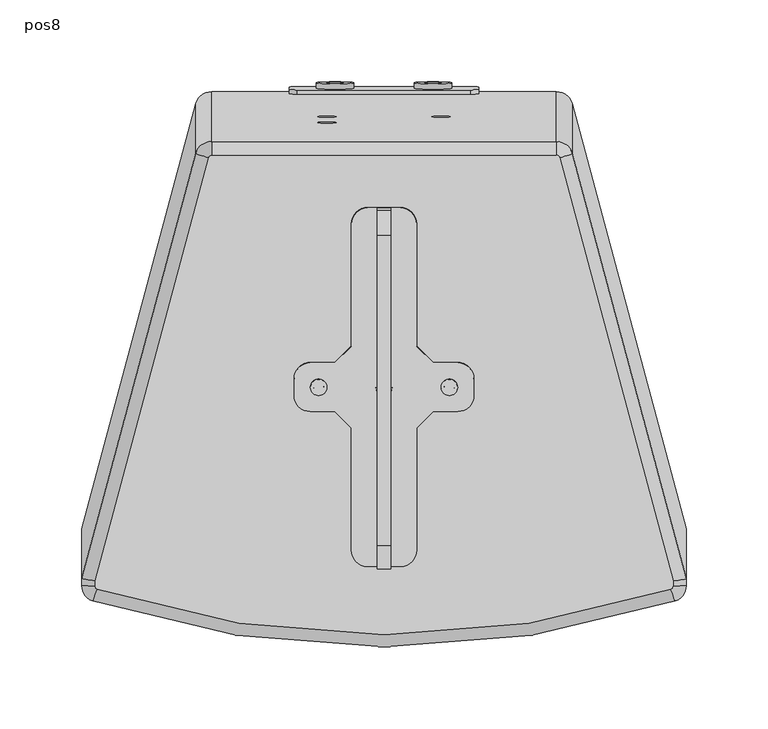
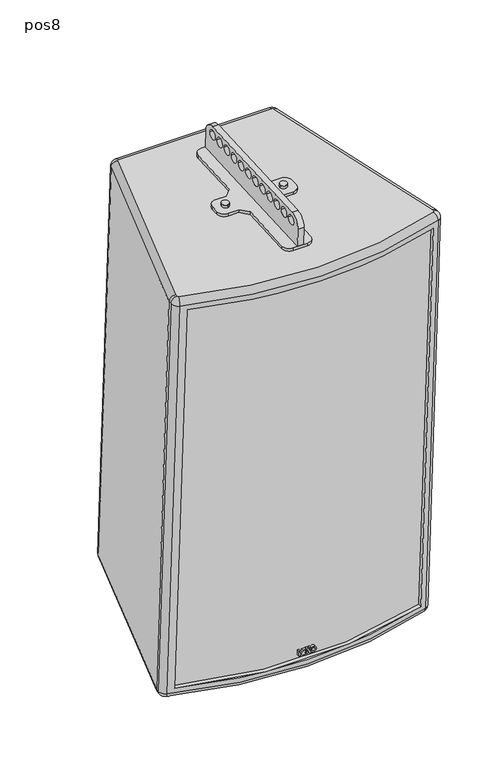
"""IFC4 building model written with IfcOpenShell, lengths in millimetres: proxy geometry, ePS12-BUMP-TRUSSVM : pos8."""

from ifc_helpers import new_model, si_unit, point, frame, frame_2d, origin, place, context, project, spatial, polyline, circle_curve, ellipse_curve, trimmed, segment, composite_curve, outline, extrude, source, transform, mapped, element, save
from ifc_brep_helpers import plane_surface, cylinder_surface, revolved_surface, advanced_brep


def pos8_ceda2ec0(model_context):
    return source(origin(), model_context, "Body", "SolidModel", [
        extrude(outline(composite_curve([segment(trimmed(circle_curve(frame_2d((0.0, -5.0)), 5.0), [point((0.0, -10.0))], [point((0.0, 0.0))], False, "CARTESIAN"), True, "CONTINUOUS"), segment(trimmed(circle_curve(frame_2d((0.0, -5.0)), 5.0), [point((0.0, 0.0))], [point((0.0, -10.0))], False, "CARTESIAN"), True, "CONTINUOUS")], self_intersect=False)), frame((-35.0511607, -24.6379572, -30.3310187), z_axis=(0.0, -0.052335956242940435, 0.998629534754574), x_axis=(0.0, -0.998629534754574, -0.052335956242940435)), (0.0, 0.0, 1.0), 4.0),
        extrude(outline(composite_curve([segment(trimmed(circle_curve(frame_2d((0.0, 75.1023214)), 5.0), [point((0.0, 80.1023214))], [point((0.0, 70.1023214))], False, "CARTESIAN"), True, "CONTINUOUS"), segment(trimmed(circle_curve(frame_2d((0.0, 75.1023214)), 5.0), [point((0.0, 70.1023214))], [point((0.0, 80.1023214))], False, "CARTESIAN"), True, "CONTINUOUS")], self_intersect=False)), frame((-35.0511607, -24.6379572, -30.3310187), z_axis=(0.0, -0.052335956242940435, 0.998629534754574), x_axis=(0.0, -0.998629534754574, -0.052335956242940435)), (0.0, 0.0, 1.0), 4.0),
        extrude(outline(composite_curve([segment(trimmed(circle_curve(frame_2d((68.8711137, 0.6052651)), 15.0), [point((68.0860744, 15.5847081))], [point((83.8505568, 1.3903044))], False, "CARTESIAN"), True, "CONTINUOUS"), segment(polyline([(83.8505568, 1.3903044), (85.2112916, -24.5740635), (-134.487206, -36.0879738), (-135.8479409, -10.1236059)]), True, "CONTINUOUS"), segment(trimmed(circle_curve(frame_2d((-120.8684979, -9.3385666)), 15.0), [point((-135.8479409, -10.1236059))], [point((-121.6535372, 5.6408764))], False, "CARTESIAN"), True, "CONTINUOUS"), segment(polyline([(-121.6535372, 5.6408764), (68.0860744, 15.5847081)]), True, "CONTINUOUS")], self_intersect=False), holes=[composite_curve([segment(trimmed(circle_curve(frame_2d((-34.1706235, -1.7908065)), 6.5), [point((-40.6617155, -2.1309902))], [point((-27.6795315, -1.4506228))], True, "CARTESIAN"), True, "CONTINUOUS"), segment(trimmed(circle_curve(frame_2d((-34.1706235, -1.7908065)), 6.5), [point((-27.6795315, -1.4506228))], [point((-40.6617155, -2.1309902))], True, "CARTESIAN"), True, "CONTINUOUS")], self_intersect=False), composite_curve([segment(trimmed(circle_curve(frame_2d((-51.2253435, -2.6846065)), 6.5), [point((-57.7164355, -3.0247902))], [point((-44.7342516, -2.3444228))], True, "CARTESIAN"), True, "CONTINUOUS"), segment(trimmed(circle_curve(frame_2d((-51.2253435, -2.6846065)), 6.5), [point((-44.7342516, -2.3444228))], [point((-57.7164355, -3.0247902))], True, "CARTESIAN"), True, "CONTINUOUS")], self_intersect=False), composite_curve([segment(trimmed(circle_curve(frame_2d((-68.2800636, -3.5784065)), 6.5), [point((-74.7711555, -3.9185902))], [point((-61.7889716, -3.2382228))], True, "CARTESIAN"), True, "CONTINUOUS"), segment(trimmed(circle_curve(frame_2d((-68.2800636, -3.5784065)), 6.5), [point((-61.7889716, -3.2382228))], [point((-74.7711555, -3.9185902))], True, "CARTESIAN"), True, "CONTINUOUS")], self_intersect=False), composite_curve([segment(trimmed(circle_curve(frame_2d((-85.3347836, -4.4722065)), 6.5), [point((-91.8258756, -4.8123902))], [point((-78.8436916, -4.1320228))], True, "CARTESIAN"), True, "CONTINUOUS"), segment(trimmed(circle_curve(frame_2d((-85.3347836, -4.4722065)), 6.5), [point((-78.8436916, -4.1320228))], [point((-91.8258756, -4.8123902))], True, "CARTESIAN"), True, "CONTINUOUS")], self_intersect=False), composite_curve([segment(trimmed(circle_curve(frame_2d((-102.3895036, -5.3660065)), 6.5), [point((-108.8805956, -5.7061902))], [point((-95.8984116, -5.0258228))], True, "CARTESIAN"), True, "CONTINUOUS"), segment(trimmed(circle_curve(frame_2d((-102.3895036, -5.3660065)), 6.5), [point((-95.8984116, -5.0258228))], [point((-108.8805956, -5.7061902))], True, "CARTESIAN"), True, "CONTINUOUS")], self_intersect=False), composite_curve([segment(trimmed(circle_curve(frame_2d((-119.4442236, -6.2598065)), 6.5), [point((-125.9353156, -6.5999902))], [point((-112.9531317, -5.9196228))], True, "CARTESIAN"), True, "CONTINUOUS"), segment(trimmed(circle_curve(frame_2d((-119.4442236, -6.2598065)), 6.5), [point((-112.9531317, -5.9196228))], [point((-125.9353156, -6.5999902))], True, "CARTESIAN"), True, "CONTINUOUS")], self_intersect=False), composite_curve([segment(trimmed(circle_curve(frame_2d((-17.0853118, -0.8954032)), 6.5), [point((-10.5942198, -0.5552195))], [point((-23.5764037, -1.235587))], True, "CARTESIAN"), True, "CONTINUOUS"), segment(trimmed(circle_curve(frame_2d((-17.0853118, -0.8954032)), 6.5), [point((-23.5764037, -1.235587))], [point((-10.5942198, -0.5552195))], True, "CARTESIAN"), True, "CONTINUOUS")], self_intersect=False), composite_curve([segment(trimmed(circle_curve(frame_2d((-0.0305917, -0.0016032)), 6.5), [point((6.4605002, 0.3385805))], [point((-6.5216837, -0.341787))], True, "CARTESIAN"), True, "CONTINUOUS"), segment(trimmed(circle_curve(frame_2d((-0.0305917, -0.0016032)), 6.5), [point((-6.5216837, -0.341787))], [point((6.4605002, 0.3385805))], True, "CARTESIAN"), True, "CONTINUOUS")], self_intersect=False), composite_curve([segment(trimmed(circle_curve(frame_2d((17.0241283, 0.8921968)), 6.5), [point((23.5152203, 1.2323805))], [point((10.5330363, 0.552013))], True, "CARTESIAN"), True, "CONTINUOUS"), segment(trimmed(circle_curve(frame_2d((17.0241283, 0.8921968)), 6.5), [point((10.5330363, 0.552013))], [point((23.5152203, 1.2323805))], True, "CARTESIAN"), True, "CONTINUOUS")], self_intersect=False), composite_curve([segment(trimmed(circle_curve(frame_2d((34.0788483, 1.7859968)), 6.5), [point((40.5699403, 2.1261805))], [point((27.5877563, 1.445813))], True, "CARTESIAN"), True, "CONTINUOUS"), segment(trimmed(circle_curve(frame_2d((34.0788483, 1.7859968)), 6.5), [point((27.5877563, 1.445813))], [point((40.5699403, 2.1261805))], True, "CARTESIAN"), True, "CONTINUOUS")], self_intersect=False), composite_curve([segment(trimmed(circle_curve(frame_2d((51.1335683, 2.6797968)), 6.5), [point((57.6246603, 3.0199805))], [point((44.6424764, 2.339613))], True, "CARTESIAN"), True, "CONTINUOUS"), segment(trimmed(circle_curve(frame_2d((51.1335683, 2.6797968)), 6.5), [point((44.6424764, 2.339613))], [point((57.6246603, 3.0199805))], True, "CARTESIAN"), True, "CONTINUOUS")], self_intersect=False), composite_curve([segment(trimmed(circle_curve(frame_2d((68.1882884, 3.5735968)), 6.5), [point((74.6793803, 3.9137805))], [point((61.6971964, 3.2334131))], True, "CARTESIAN"), True, "CONTINUOUS"), segment(trimmed(circle_curve(frame_2d((68.1882884, 3.5735968)), 6.5), [point((61.6971964, 3.2334131))], [point((74.6793803, 3.9137805))], True, "CARTESIAN"), True, "CONTINUOUS")], self_intersect=False)]), frame((-4.0, 0.0, 0.0), z_axis=(1.0, 0.0, 0.0), x_axis=(0.0, 1.0, 0.0)), (0.0, 0.0, 1.0), 8.0),
        extrude(outline(composite_curve([segment(polyline([(1.6568543, 0.0), (54.6898629, 53.0330086)]), True, "CONTINUOUS"), segment(trimmed(circle_curve(frame_2d((61.7609307, 45.9619408)), 10.0), [point((54.6898629, 53.0330086))], [point((68.8319985, 53.0330086))], False, "CARTESIAN"), True, "CONTINUOUS"), segment(polyline([(68.8319985, 53.0330086), (82.9741341, 38.8908729)]), True, "CONTINUOUS"), segment(trimmed(circle_curve(frame_2d((75.9030663, 31.8198051)), 10.0), [point((82.9741341, 38.8908729))], [point((82.9741341, 24.7487373))], False, "CARTESIAN"), True, "CONTINUOUS"), segment(polyline([(82.9741341, 24.7487373), (29.9411255, -28.2842712), (29.9411255, -42.4264069), (40.5477272, -53.0330086)]), True, "CONTINUOUS"), segment(trimmed(circle_curve(frame_2d((33.4766594, -60.1040764)), 10.0), [point((40.5477272, -53.0330086))], [point((40.5477272, -67.1751442))], False, "CARTESIAN"), True, "CONTINUOUS"), segment(polyline([(40.5477272, -67.1751442), (33.4766594, -74.2462121)]), True, "CONTINUOUS"), segment(trimmed(circle_curve(frame_2d((26.4055916, -67.1751443)), 10.0), [point((33.4766594, -74.2462121))], [point((19.3345238, -74.246212))], False, "CARTESIAN"), True, "CONTINUOUS"), segment(polyline([(19.3345238, -74.246212), (8.7279221, -63.6396103), (-5.4142136, -63.6396103), (-58.4472222, -116.6726189)]), True, "CONTINUOUS"), segment(trimmed(circle_curve(frame_2d((-65.51829, -109.6015511)), 10.0), [point((-58.4472222, -116.6726189))], [point((-72.5893577, -116.6726189))], False, "CARTESIAN"), True, "CONTINUOUS"), segment(polyline([(-72.5893577, -116.6726189), (-86.7314934, -102.5304833)]), True, "CONTINUOUS"), segment(trimmed(circle_curve(frame_2d((-79.6604256, -95.4594155)), 10.0), [point((-86.7314934, -102.5304833))], [point((-86.7314934, -88.3883477))], False, "CARTESIAN"), True, "CONTINUOUS"), segment(polyline([(-86.7314934, -88.3883477), (-33.6984848, -35.3553391), (-33.6984848, -21.2132034), (-44.3050865, -10.6066017)]), True, "CONTINUOUS"), segment(trimmed(circle_curve(frame_2d((-37.2340187, -3.5355339)), 10.0), [point((-44.3050865, -10.6066017))], [point((-44.3050865, 3.5355339))], False, "CARTESIAN"), True, "CONTINUOUS"), segment(polyline([(-44.3050865, 3.5355339), (-37.2340187, 10.6066017)]), True, "CONTINUOUS"), segment(trimmed(circle_curve(frame_2d((-30.1629509, 3.5355339)), 10.0), [point((-37.2340187, 10.6066017))], [point((-23.0918831, 10.6066017))], False, "CARTESIAN"), True, "CONTINUOUS"), segment(polyline([(-23.0918831, 10.6066017), (-12.4852814, 0.0), (1.6568543, 0.0)]), True, "CONTINUOUS")], self_intersect=False), holes=[composite_curve([segment(trimmed(circle_curve(frame_2d((-30.1702094, -3.5282754)), 3.0), [point((-32.2915298, -1.4069551))], [point((-28.0488891, -5.6495957))], True, "CARTESIAN"), True, "CONTINUOUS"), segment(trimmed(circle_curve(frame_2d((-30.1702094, -3.5282754)), 3.0), [point((-28.0488891, -5.6495957))], [point((-32.2915298, -1.4069551))], True, "CARTESIAN"), True, "CONTINUOUS")], self_intersect=False), composite_curve([segment(trimmed(circle_curve(frame_2d((26.4128501, -60.1113349)), 3.0), [point((28.5341705, -62.2326553))], [point((24.2915298, -57.9900146))], True, "CARTESIAN"), True, "CONTINUOUS"), segment(trimmed(circle_curve(frame_2d((26.4128501, -60.1113349)), 3.0), [point((24.2915298, -57.9900146))], [point((28.5341705, -62.2326553))], True, "CARTESIAN"), True, "CONTINUOUS")], self_intersect=False)]), frame((-21.1715729, -0.6328423, -33.0784533), z_axis=(0.0, -0.05233595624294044, 0.998629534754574), x_axis=(0.7071067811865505, 0.7061377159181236, 0.03700710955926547)), (0.0, 0.0, 1.0), 4.0),
        extrude(outline(composite_curve([segment(trimmed(circle_curve(frame_2d((3.670838, -20.0113735)), 3.9406238), [point((3.670838, -16.0707497))], [point((3.670838, -23.9519974))], False, "CARTESIAN"), True, "CONTINUOUS"), segment(trimmed(circle_curve(frame_2d((3.670838, -20.0113735)), 3.9406238), [point((3.670838, -23.9519974))], [point((3.670838, -16.0707497))], False, "CARTESIAN"), True, "CONTINUOUS")], self_intersect=False), holes=[composite_curve([segment(trimmed(circle_curve(frame_2d((3.670838, -20.0113735)), 2.0681078), [point((3.670838, -17.9432657))], [point((3.670838, -22.0794813))], True, "CARTESIAN"), True, "CONTINUOUS"), segment(trimmed(circle_curve(frame_2d((3.670838, -20.0113735)), 2.0681078), [point((3.670838, -22.0794813))], [point((3.670838, -17.9432657))], True, "CARTESIAN"), True, "CONTINUOUS")], self_intersect=False)]), frame((-11.9363528, -152.2819405, -612.3681033), z_axis=(0.0, 0.998629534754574, 0.052335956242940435), x_axis=(0.0, 0.052335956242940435, -0.998629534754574)), (0.0, 0.0, 1.0), 3.5087945),
        extrude(outline(polyline([(0.0, 0.0), (7.2797671, 0.0), (7.2797671, -1.8923673), (3.1144368, -1.8923673), (7.2797671, -4.6674642), (7.2797671, -11.5183739), (5.4047959, -12.8369462), (3.8052625, -11.7735691), (5.6771026, -10.4040265), (5.6771026, -7.3703972), (4.4228152, -7.3703972), (4.4228152, -9.6535101), (2.820085, -9.6535101), (2.820085, -7.3703972), (1.6035818, -7.3703972), (1.6035818, -9.7774719), (0.8035818, -9.7774719), (0.0008516, -9.2438132), (0.0008516, -4.9754371), (4.4509075, -4.9657455), (0.0, -2.0264794), (0.0, 0.0)])), frame((-11.9363528, -152.2819405, -612.3681033), z_axis=(0.0, 0.998629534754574, 0.052335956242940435), x_axis=(0.0, 0.052335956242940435, -0.998629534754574)), (0.0, 0.0, 1.0), 3.5087945),
        extrude(outline(polyline([(0.0, -9.8851283), (8.2409468, -15.3637475), (8.2409468, -17.5569502), (0.0, -12.078331), (0.0, -9.8851283)])), frame((-11.9363528, -152.2819405, -612.3681033), z_axis=(0.0, 0.998629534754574, 0.052335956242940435), x_axis=(0.0, 0.052335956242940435, -0.998629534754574)), (0.0, 0.0, 1.0), 3.5087945),
        extrude(outline(polyline([(0.0, -16.6257623), (0.0, -14.2989718), (1.267957, -13.5511775), (2.8988509, -14.6354032), (0.0, -16.6257623)])), frame((-11.9363528, -152.2819405, -612.3681033), z_axis=(0.0, 0.998629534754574, 0.052335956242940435), x_axis=(0.0, 0.052335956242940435, -0.998629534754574)), (0.0, 0.0, 1.0), 3.5087945),
        extrude(outline(composite_curve([segment(trimmed(circle_curve(frame_2d((0.0, -55.0)), 11.4515227), [point((0.0, -43.5484773))], [point((0.0, -66.4515227))], False, "CARTESIAN"), True, "CONTINUOUS"), segment(trimmed(circle_curve(frame_2d((0.0, -55.0)), 11.4515227), [point((0.0, -66.4515227))], [point((0.0, -43.5484773))], False, "CARTESIAN"), True, "CONTINUOUS")], self_intersect=False), holes=[composite_curve([segment(trimmed(circle_curve(frame_2d((0.0, -55.0)), 5.0), [point((0.0, -50.0))], [point((0.0, -60.0))], True, "CARTESIAN"), True, "CONTINUOUS"), segment(trimmed(circle_curve(frame_2d((0.0, -55.0)), 5.0), [point((0.0, -60.0))], [point((0.0, -50.0))], True, "CARTESIAN"), True, "CONTINUOUS")], self_intersect=False)]), frame((25.0, 158.3946012, -588.0161227), z_axis=(0.0, 0.998629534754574, 0.052335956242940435), x_axis=(0.0, -0.052335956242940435, 0.998629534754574)), (0.0, 0.0, 1.0), 3.4052646),
        extrude(outline(composite_curve([segment(trimmed(circle_curve(frame_2d((0.0, 5.0)), 11.4515227), [point((0.0, 16.4515227))], [point((0.0, -6.4515227))], False, "CARTESIAN"), True, "CONTINUOUS"), segment(trimmed(circle_curve(frame_2d((0.0, 5.0)), 11.4515227), [point((0.0, -6.4515227))], [point((0.0, 16.4515227))], False, "CARTESIAN"), True, "CONTINUOUS")], self_intersect=False), holes=[composite_curve([segment(trimmed(circle_curve(frame_2d((0.0, 5.0)), 5.0), [point((0.0, 10.0))], [point((0.0, 0.0))], True, "CARTESIAN"), True, "CONTINUOUS"), segment(trimmed(circle_curve(frame_2d((0.0, 5.0)), 5.0), [point((0.0, 0.0))], [point((0.0, 10.0))], True, "CARTESIAN"), True, "CONTINUOUS")], self_intersect=False)]), frame((25.0, 158.3946012, -588.0161227), z_axis=(0.0, 0.998629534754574, 0.052335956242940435), x_axis=(0.0, -0.052335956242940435, 0.998629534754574)), (0.0, 0.0, 1.0), 3.4052646),
        extrude(outline(composite_curve([segment(polyline([(-4.9999999, -5.0), (-4.9999999, 101.0)]), True, "CONTINUOUS"), segment(trimmed(circle_curve(frame_2d((0.0, 101.0)), 5.0), [point((-4.9999999, 101.0))], [point((0.0, 106.0))], False, "CARTESIAN"), True, "CONTINUOUS"), segment(polyline([(0.0, 106.0), (28.0, 106.0)]), True, "CONTINUOUS"), segment(trimmed(circle_curve(frame_2d((28.0, 101.0)), 5.0), [point((28.0, 106.0))], [point((33.0000001, 101.0))], False, "CARTESIAN"), True, "CONTINUOUS"), segment(polyline([(33.0000001, 101.0), (33.0000001, -5.0)]), True, "CONTINUOUS"), segment(trimmed(circle_curve(frame_2d((28.0, -5.0)), 5.0), [point((33.0000001, -5.0))], [point((28.0, -10.0))], False, "CARTESIAN"), True, "CONTINUOUS"), segment(polyline([(28.0, -10.0), (0.0, -10.0)]), True, "CONTINUOUS"), segment(trimmed(circle_curve(frame_2d((0.0, -5.0)), 5.0), [point((0.0, -10.0))], [point((-4.9999999, -5.0))], False, "CARTESIAN"), True, "CONTINUOUS")], self_intersect=False)), frame((48.0, 155.165324, -574.1661491), z_axis=(0.0, 0.998629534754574, 0.052335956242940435), x_axis=(0.0, 0.052335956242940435, -0.998629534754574)), (0.0, 0.0, 1.0), 2.5),
        advanced_brep(
        [(0.0, -29.2124172, -38.5817347), (0.0, -19.2261219, -38.0583752), (0.0, -19.4354657, -34.063857), (0.0, -29.4217611, -34.5872166), (40.0, -29.2124172, -38.5817347), (40.0, -19.2261219, -38.0583752), (40.0, -19.4354657, -34.063857), (40.0, -29.4217611, -34.5872166), (-170.0, -157.8588944, -56.3389067), (-170.0, -152.6821623, -56.0676057), (170.0, -152.6821623, -56.0676057), (170.0, -157.8588944, -56.3389067), (170.0, -128.0273994, -625.5577415), (170.0, -122.8506672, -625.2864405), (-170.0, -122.8506672, -625.2864405), (-170.0, -128.0273994, -625.5577415), (0.0, 11.7567642, -629.2470597), (0.0, 1.7704689, -629.7704193), (-40.0, 11.7567642, -629.2470597), (-40.0, 1.7704689, -629.7704193), (40.0, 11.7567642, -629.2470597), (40.0, 1.7704689, -629.7704193), (-185.0, -141.8958876, -48.4927145), (-115.1756048, 118.3351758, -34.8545824), (-115.1756048, 148.8993742, -618.0542307), (-185.0, -111.3316892, -631.6923628), (-185.0, -146.1682085, -48.7166174), (-185.0, -115.6040101, -631.9162657), (178.0902391, -155.6657174, -49.2143607), (-178.0902391, -155.6657174, -49.2143607), (-178.0902391, -125.1015187, -632.4140127), (178.0902391, -125.1015189, -632.414009), (185.0, -141.8958876, -48.4927145), (185.0, -146.1682085, -48.7166174), (185.0, -115.6040101, -631.9162657), (185.0, -111.3316892, -631.6923628), (115.1756048, 118.3351758, -34.8545824), (115.1756048, 148.8993742, -618.0542307), (105.5163465, 125.7368277, -34.4666783), (105.5163465, 156.3010261, -617.6663266), (-40.6566026, 132.4099391, -256.4216161), (-29.3432823, 132.4099391, -256.4216161), (-29.3432823, 137.35541, -256.162435), (-40.6566026, 137.35541, -256.162435), (177.0, -146.5868962, -40.7275811), (175.6180478, -148.486398, -40.8271298), (-175.6180478, -148.486398, -40.8271298), (-177.0, -146.5868962, -40.7275811), (-177.0, -143.3663519, -40.5587995), (-107.4481982, 115.8487734, -26.9739105), (-105.5163465, 117.3291037, -26.8963296), (-105.5163465, 125.7368277, -34.4666783), (105.5163465, 117.3291037, -26.8963296), (107.4481982, 115.8487734, -26.9739105), (177.0, -143.3663519, -40.5587995), (-40.0, -29.4217611, -34.5872166), (-40.0, -19.4354657, -34.063857), (105.5163465, 148.7306775, -626.0740505), (107.4481982, 147.2503471, -626.1516313), (177.0, -111.9647781, -639.7365204), (177.0, -115.1853224, -639.905302), (175.6180478, -117.0848242, -640.0048506), (-175.6180478, -117.0848242, -640.0048506), (-177.0, -115.1853224, -639.905302), (-177.0, -111.9647781, -639.7365204), (-107.4481982, 147.2503471, -626.1516313), (-105.5163465, 148.7306775, -626.0740505), (0.0, 11.966108, -633.2415779), (0.0, 1.9798127, -633.7649374), (-40.0, 11.966108, -633.2415779), (-40.0, 1.9798127, -633.7649374), (40.0, 11.966108, -633.2415779), (40.0, 1.9798127, -633.7649374), (-40.0, -19.2261219, -38.0583752), (-40.0, -29.2124172, -38.5817347), (40.6567177, 136.073456, -326.3256836), (29.3433974, 136.073456, -326.3256836), (-29.3432823, 136.073456, -326.3256836), (-40.6566026, 136.073456, -326.3256836), (29.3433974, 141.0189269, -326.0665024), (40.6567177, 141.0189269, -326.0665024), (-105.5163465, 156.3010261, -617.6663266), (-29.3432823, 141.0189269, -326.0665024), (-40.6566026, 141.0189269, -326.0665024)],
        [
            (0, 1, circle_curve(frame((0.0, -24.2192696, -38.3200549), z_axis=(0.0, 0.052335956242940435, -0.998629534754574), x_axis=(0.0, -0.998629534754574, -0.052335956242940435)), 5.0)),
            (1, 2),
            (2, 3, circle_curve(frame((0.0, -24.4286134, -34.3255368), z_axis=(0.0, -0.052335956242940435, 0.998629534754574), x_axis=(0.0, -0.998629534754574, -0.052335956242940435)), 5.0)),
            (3, 0),
            (4, 5, circle_curve(frame((40.0, -24.2192696, -38.3200549), z_axis=(0.0, 0.052335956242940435, -0.998629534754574), x_axis=(0.0, -0.998629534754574, -0.052335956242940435)), 5.0)),
            (5, 6),
            (6, 7, circle_curve(frame((40.0, -24.4286134, -34.3255368), z_axis=(0.0, -0.052335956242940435, 0.998629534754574), x_axis=(0.0, -0.998629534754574, -0.052335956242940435)), 5.0)),
            (7, 4),
            (8, 9),
            (9, 10, circle_curve(frame((0.0, 398.5334636, -27.1796188), z_axis=(0.0, -0.052335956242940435, 0.998629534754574), x_axis=(1.0, 0.0, 0.0)), 577.5579469)),
            (10, 11),
            (11, 8, circle_curve(frame((0.0, 392.0413339, -27.5198569), z_axis=(0.0, 0.052335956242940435, -0.998629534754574), x_axis=(1.0, 0.0, 0.0)), 576.2992267)),
            (12, 13),
            (13, 14, circle_curve(frame((0.0, 428.3649587, -596.3984536), z_axis=(0.0, 0.052335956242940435, -0.998629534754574), x_axis=(1.0, 0.0, 0.0)), 577.5579469)),
            (14, 15),
            (15, 12, circle_curve(frame((0.0, 421.8728289, -596.7386917), z_axis=(0.0, -0.052335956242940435, 0.998629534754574), x_axis=(1.0, 0.0, 0.0)), 576.2992267)),
            (16, 17, circle_curve(frame((0.0, 6.7636165, -629.5087395), z_axis=(0.0, 0.052335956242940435, -0.998629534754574), x_axis=(0.0, -0.998629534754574, -0.052335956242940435)), 5.0)),
            (17, 16, circle_curve(frame((0.0, 6.7636165, -629.5087395), z_axis=(0.0, 0.052335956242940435, -0.998629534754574), x_axis=(0.0, -0.998629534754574, -0.052335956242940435)), 5.0)),
            (18, 19, circle_curve(frame((-40.0, 6.7636165, -629.5087395), z_axis=(0.0, 0.052335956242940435, -0.998629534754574), x_axis=(0.0, -0.998629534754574, -0.052335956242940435)), 5.0)),
            (19, 18, circle_curve(frame((-40.0, 6.7636165, -629.5087395), z_axis=(0.0, 0.052335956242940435, -0.998629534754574), x_axis=(0.0, -0.998629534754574, -0.052335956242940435)), 5.0)),
            (20, 21, circle_curve(frame((40.0, 6.7636165, -629.5087395), z_axis=(0.0, 0.052335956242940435, -0.998629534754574), x_axis=(0.0, -0.998629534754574, -0.052335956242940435)), 5.0)),
            (21, 20, circle_curve(frame((40.0, 6.7636165, -629.5087395), z_axis=(0.0, 0.052335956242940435, -0.998629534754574), x_axis=(0.0, -0.998629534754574, -0.052335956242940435)), 5.0)),
            (22, 23),
            (23, 24),
            (24, 25),
            (25, 22),
            (26, 22),
            (25, 27),
            (27, 26),
            (28, 29, circle_curve(frame((0.0, 391.6749822, -20.5294502), z_axis=(0.0, 0.052335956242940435, -0.998629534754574), x_axis=(1.0, 0.0, 0.0)), 576.2992267)),
            (29, 30),
            (30, 31, circle_curve(frame((0.0, 422.2391806, -603.7290985), z_axis=(0.0, -0.052335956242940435, 0.998629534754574), x_axis=(1.0, 0.0, 0.0)), 576.2992267)),
            (31, 28),
            (11, 12),
            (15, 8),
            (32, 33),
            (33, 34),
            (34, 35),
            (35, 32),
            (36, 32),
            (35, 37),
            (37, 36),
            (38, 36, circle_curve(frame((105.5163465, 115.7505323, -34.9900378), z_axis=(0.0, 0.052335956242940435, -0.998629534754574), x_axis=(1.0, 0.0, 0.0)), 10.0)),
            (37, 39, circle_curve(frame((105.5163465, 146.3147308, -618.1896861), z_axis=(0.0, -0.052335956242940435, 0.998629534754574), x_axis=(1.0, 0.0, 0.0)), 10.0)),
            (39, 38),
            (40, 41, circle_curve(frame((-34.9999424, 132.4099391, -256.4216161), z_axis=(0.0, -0.998629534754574, -0.052335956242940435), x_axis=(-1.0, 0.0, 0.0)), 5.6566602)),
            (41, 42),
            (42, 43, circle_curve(frame((-34.9999424, 137.35541, -256.162435), z_axis=(0.0, 0.998629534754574, 0.052335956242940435), x_axis=(-1.0, 0.0, 0.0)), 5.6566602)),
            (43, 40),
            (41, 40, circle_curve(frame((-34.9999424, 132.4099391, -256.4216161), z_axis=(0.0, -0.998629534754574, -0.052335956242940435), x_axis=(-1.0, 0.0, 0.0)), 5.6566602)),
            (43, 42, circle_curve(frame((-34.9999424, 137.35541, -256.162435), z_axis=(0.0, 0.998629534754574, 0.052335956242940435), x_axis=(-1.0, 0.0, 0.0)), 5.6566602)),
            (10, 13),
            (33, 44, circle_curve(frame((177.0, -146.1682085, -48.7166174), z_axis=(0.0, -0.998629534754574, -0.05233595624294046), x_axis=(1.0, 0.0, 0.0)), 8.0)),
            (44, 45, circle_curve(frame((175.0, -146.5868962, -40.7275811), z_axis=(0.0, 0.052335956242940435, -0.998629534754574), x_axis=(1.0, 0.0, 0.0)), 2.0)),
            (45, 28, circle_curve(frame((175.6180478, -148.0677103, -48.8161661), z_axis=(0.9510542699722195, 0.30860040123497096, 0.016173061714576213), x_axis=(0.3090239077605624, -0.9497508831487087, -0.049774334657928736)), 8.0)),
            (28, 33, circle_curve(frame((175.0, -146.1682085, -48.7166174), z_axis=(0.0, -0.052335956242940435, 0.998629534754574), x_axis=(1.0, 0.0, 0.0)), 10.0)),
            (45, 46, circle_curve(frame((0.0, 391.2562945, -12.5404139), z_axis=(0.0, 0.052335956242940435, -0.998629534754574), x_axis=(0.30902390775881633, -0.9497508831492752, -0.04977433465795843)), 568.2992267)),
            (46, 29, circle_curve(frame((-175.6180478, -148.0677103, -48.8161661), z_axis=(0.9510542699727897, -0.30860040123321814, -0.016173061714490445), x_axis=(-0.30902390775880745, -0.9497508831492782, -0.04977433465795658)), 8.0)),
            (46, 47, circle_curve(frame((-175.0, -146.5868962, -40.7275811), z_axis=(0.0, 0.052335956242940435, -0.998629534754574), x_axis=(-0.3090239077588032, -0.9497508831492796, -0.04977433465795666)), 2.0)),
            (47, 26, circle_curve(frame((-177.0, -146.1682085, -48.7166174), z_axis=(0.0, -0.9986295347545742, -0.05233595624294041), x_axis=(-1.0, 0.0, 0.0)), 8.0)),
            (26, 29, circle_curve(frame((-175.0, -146.1682085, -48.7166174), z_axis=(0.0, -0.052335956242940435, 0.998629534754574), x_axis=(-0.3090239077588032, -0.9497508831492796, -0.04977433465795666)), 10.0)),
            (47, 48),
            (48, 22, ellipse_curve(frame((-177.0, -142.9476642, -48.5478358), z_axis=(-0.13052619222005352, -0.9900861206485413, -0.05188821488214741), x_axis=(-0.9914448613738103, 0.13034731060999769, 0.006831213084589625)), 8.0690317, 8.0)),
            (48, 49),
            (49, 23, circle_curve(frame((-107.4481982, 116.267461, -34.9629468), z_axis=(-0.2588190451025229, -0.9646020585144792, -0.05055265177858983), x_axis=(-0.9659258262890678, 0.2584643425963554, 0.013545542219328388)), 8.0)),
            (49, 50, circle_curve(frame((-105.5163465, 115.3318447, -27.0010016), z_axis=(0.0, 0.052335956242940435, -0.998629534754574), x_axis=(-0.9659258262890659, 0.2584643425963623, 0.013545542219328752)), 2.0)),
            (50, 51, circle_curve(frame((-105.5163465, 117.7477914, -34.8853659), z_axis=(-1.0, 0.0, 0.0), x_axis=(0.0, 0.9986295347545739, 0.05233595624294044)), 8.0)),
            (51, 23, circle_curve(frame((-105.5163465, 115.7505323, -34.9900378), z_axis=(0.0, -0.052335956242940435, 0.998629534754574), x_axis=(-0.9659258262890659, 0.2584643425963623, 0.013545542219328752)), 10.0)),
            (52, 38, circle_curve(frame((105.5163465, 117.7477914, -34.8853659), z_axis=(-1.0, 0.0, 0.0), x_axis=(0.0, 0.998629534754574, 0.052335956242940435)), 8.0)),
            (38, 51),
            (50, 52),
            (53, 52, circle_curve(frame((105.5163465, 115.3318447, -27.0010016), z_axis=(0.0, -0.052335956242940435, 0.998629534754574), x_axis=(0.0, 0.998629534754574, 0.052335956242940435)), 2.0)),
            (44, 54),
            (54, 53),
            (2, 3, circle_curve(frame((0.0, -24.4286134, -34.3255368), z_axis=(0.0, 0.052335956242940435, -0.998629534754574), x_axis=(0.0, -0.998629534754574, -0.052335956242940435)), 5.0)),
            (55, 56, circle_curve(frame((-40.0, -24.4286134, -34.3255368), z_axis=(0.0, 0.052335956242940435, -0.998629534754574), x_axis=(0.0, -0.998629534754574, -0.052335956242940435)), 5.0)),
            (56, 55, circle_curve(frame((-40.0, -24.4286134, -34.3255368), z_axis=(0.0, 0.052335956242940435, -0.998629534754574), x_axis=(0.0, -0.998629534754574, -0.052335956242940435)), 5.0)),
            (6, 7, circle_curve(frame((40.0, -24.4286134, -34.3255368), z_axis=(0.0, 0.052335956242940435, -0.998629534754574), x_axis=(0.0, -0.998629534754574, -0.052335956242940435)), 5.0)),
            (57, 58, circle_curve(frame((105.5163465, 146.7334184, -626.1787224), z_axis=(0.0, 0.052335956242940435, -0.998629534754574), x_axis=(0.0, 0.998629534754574, 0.052335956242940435)), 2.0)),
            (58, 59),
            (59, 60),
            (60, 61, circle_curve(frame((175.0, -115.1853224, -639.905302), z_axis=(0.0, 0.052335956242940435, -0.998629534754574), x_axis=(1.0, 0.0, 0.0)), 2.0)),
            (61, 62, circle_curve(frame((0.0, 422.6578683, -611.7181347), z_axis=(0.0, 0.052335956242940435, -0.998629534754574), x_axis=(0.30902390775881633, -0.9497508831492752, -0.04977433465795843)), 568.2992267)),
            (62, 63, circle_curve(frame((-175.0, -115.1853224, -639.905302), z_axis=(0.0, 0.052335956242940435, -0.998629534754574), x_axis=(-0.30902390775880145, -0.9497508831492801, -0.04977433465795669)), 2.0)),
            (63, 64),
            (64, 65),
            (65, 66, circle_curve(frame((-105.5163465, 146.7334184, -626.1787224), z_axis=(0.0, 0.052335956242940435, -0.998629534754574), x_axis=(-0.9659258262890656, 0.2584643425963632, 0.013545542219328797)), 2.0)),
            (66, 57),
            (67, 68, circle_curve(frame((0.0, 6.9729604, -633.5032576), z_axis=(0.0, -0.052335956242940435, 0.998629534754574), x_axis=(0.0, -0.998629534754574, -0.052335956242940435)), 5.0)),
            (68, 67, circle_curve(frame((0.0, 6.9729604, -633.5032576), z_axis=(0.0, -0.052335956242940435, 0.998629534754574), x_axis=(0.0, -0.998629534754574, -0.052335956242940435)), 5.0)),
            (69, 70, circle_curve(frame((-40.0, 6.9729604, -633.5032576), z_axis=(0.0, -0.052335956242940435, 0.998629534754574), x_axis=(0.0, -0.998629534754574, -0.052335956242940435)), 5.0)),
            (70, 69, circle_curve(frame((-40.0, 6.9729604, -633.5032576), z_axis=(0.0, -0.052335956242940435, 0.998629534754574), x_axis=(0.0, -0.998629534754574, -0.052335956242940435)), 5.0)),
            (71, 72, circle_curve(frame((40.0, 6.9729604, -633.5032576), z_axis=(0.0, -0.052335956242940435, 0.998629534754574), x_axis=(0.0, -0.998629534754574, -0.052335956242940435)), 5.0)),
            (72, 71, circle_curve(frame((40.0, 6.9729604, -633.5032576), z_axis=(0.0, -0.052335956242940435, 0.998629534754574), x_axis=(0.0, -0.998629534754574, -0.052335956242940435)), 5.0)),
            (0, 1, circle_curve(frame((0.0, -24.2192696, -38.3200549), z_axis=(0.0, -0.052335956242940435, 0.998629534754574), x_axis=(0.0, -0.998629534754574, -0.052335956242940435)), 5.0)),
            (73, 74, circle_curve(frame((-40.0, -24.2192696, -38.3200549), z_axis=(0.0, -0.052335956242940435, 0.998629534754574), x_axis=(0.0, -0.998629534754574, -0.052335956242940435)), 5.0)),
            (74, 73, circle_curve(frame((-40.0, -24.2192696, -38.3200549), z_axis=(0.0, -0.052335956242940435, 0.998629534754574), x_axis=(0.0, -0.998629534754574, -0.052335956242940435)), 5.0)),
            (4, 5, circle_curve(frame((40.0, -24.2192696, -38.3200549), z_axis=(0.0, -0.052335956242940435, 0.998629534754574), x_axis=(0.0, -0.998629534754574, -0.052335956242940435)), 5.0)),
            (17, 68),
            (67, 16),
            (19, 70),
            (69, 18),
            (21, 72),
            (71, 20),
            (75, 76, circle_curve(frame((35.0000576, 136.073456, -326.3256836), z_axis=(0.0, 0.998629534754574, 0.052335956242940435), x_axis=(-1.0, 0.0, 0.0)), 5.6566602)),
            (76, 75, circle_curve(frame((35.0000576, 136.073456, -326.3256836), z_axis=(0.0, 0.998629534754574, 0.052335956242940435), x_axis=(-1.0, 0.0, 0.0)), 5.6566602)),
            (77, 78, circle_curve(frame((-34.9999424, 136.073456, -326.3256836), z_axis=(0.0, 0.998629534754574, 0.052335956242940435), x_axis=(-1.0, 0.0, 0.0)), 5.6566602)),
            (78, 77, circle_curve(frame((-34.9999424, 136.073456, -326.3256836), z_axis=(0.0, 0.998629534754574, 0.052335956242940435), x_axis=(-1.0, 0.0, 0.0)), 5.6566602)),
            (76, 79),
            (79, 80, circle_curve(frame((35.0000576, 141.0189269, -326.0665024), z_axis=(0.0, 0.998629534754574, 0.052335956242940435), x_axis=(-1.0, 0.0, 0.0)), 5.6566602)),
            (80, 75),
            (80, 79, circle_curve(frame((35.0000576, 141.0189269, -326.0665024), z_axis=(0.0, 0.998629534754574, 0.052335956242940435), x_axis=(-1.0, 0.0, 0.0)), 5.6566602)),
            (39, 81),
            (81, 51),
            (82, 83, circle_curve(frame((-34.9999424, 141.0189269, -326.0665024), z_axis=(0.0, -0.998629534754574, -0.052335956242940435), x_axis=(-1.0, 0.0, 0.0)), 5.6566602)),
            (83, 82, circle_curve(frame((-34.9999424, 141.0189269, -326.0665024), z_axis=(0.0, -0.998629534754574, -0.052335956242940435), x_axis=(-1.0, 0.0, 0.0)), 5.6566602)),
            (9, 14),
            (27, 30, circle_curve(frame((-175.0, -115.6040101, -631.9162657), z_axis=(0.0, -0.052335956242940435, 0.998629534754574), x_axis=(1.0, 0.0, 0.0)), 10.0)),
            (31, 34, circle_curve(frame((175.0, -115.6040101, -631.9162657), z_axis=(0.0, -0.052335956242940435, 0.998629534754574), x_axis=(1.0, 0.0, 0.0)), 10.0)),
            (53, 36, circle_curve(frame((107.4481982, 116.267461, -34.9629468), z_axis=(-0.2588190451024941, 0.9646020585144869, 0.050552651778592), x_axis=(0.9659258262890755, 0.25846434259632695, 0.013545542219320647)), 8.0)),
            (54, 32, ellipse_curve(frame((177.0, -142.9476642, -48.5478358), z_axis=(-0.13052619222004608, 0.9900861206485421, 0.05188821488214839), x_axis=(0.9914448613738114, 0.13034731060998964, 0.006831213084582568)), 8.0690317, 8.0)),
            (61, 31, circle_curve(frame((175.6180478, -117.5035119, -632.0158144), z_axis=(-0.9510542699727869, -0.3086004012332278, -0.01617306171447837), x_axis=(0.30902390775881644, -0.9497508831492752, -0.04977433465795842)), 8.0)),
            (30, 62, circle_curve(frame((-175.6180478, -117.5035119, -632.0158144), z_axis=(0.9510542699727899, -0.3086004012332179, -0.01617306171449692), x_axis=(-0.30902390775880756, -0.9497508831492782, -0.04977433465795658)), 8.0)),
            (27, 63, circle_curve(frame((-177.0, -115.6040101, -631.9162657), z_axis=(0.0, -0.9986295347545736, -0.05233595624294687), x_axis=(-0.9999999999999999, 0.0, 0.0)), 8.0)),
            (25, 64, ellipse_curve(frame((-177.0, -112.3834658, -631.7474841), z_axis=(-0.13052619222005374, -0.9900861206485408, -0.05188821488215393), x_axis=(-0.99144486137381, 0.13034731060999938, 0.006831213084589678)), 8.0690317, 8.0)),
            (24, 65, circle_curve(frame((-107.4481982, 146.8316595, -618.162595), z_axis=(-0.2588190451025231, -0.9646020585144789, -0.050552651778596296), x_axis=(-0.9659258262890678, 0.25846434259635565, 0.0135455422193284)), 8.0)),
            (24, 81, circle_curve(frame((-105.5163465, 146.3147308, -618.1896861), z_axis=(0.0, 0.052335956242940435, -0.998629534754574), x_axis=(-0.9659258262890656, 0.2584643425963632, 0.013545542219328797)), 10.0)),
            (81, 66, circle_curve(frame((-105.5163465, 148.3119898, -618.0850142), z_axis=(-1.0, 0.0, 0.0), x_axis=(0.0, 0.9986295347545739, 0.052335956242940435)), 8.0)),
            (39, 57, circle_curve(frame((105.5163465, 148.3119898, -618.0850142), z_axis=(-1.0, 0.0, 0.0), x_axis=(0.0, 0.998629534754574, 0.052335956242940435)), 8.0)),
            (73, 56),
            (55, 74),
            (78, 83),
            (82, 77),
            (37, 58, circle_curve(frame((107.4481982, 146.8316595, -618.162595), z_axis=(-0.2588190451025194, 0.9646020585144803, 0.05055265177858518), x_axis=(0.9659258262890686, 0.25846434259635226, 0.013545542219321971)), 8.0)),
            (35, 59, ellipse_curve(frame((177.0, -112.3834658, -631.7474841), z_axis=(-0.1305261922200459, 0.9900861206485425, 0.051888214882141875), x_axis=(0.9914448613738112, 0.13034731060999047, 0.006831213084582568)), 8.0690317, 8.0)),
            (34, 60, circle_curve(frame((177.0, -115.6040101, -631.9162657), z_axis=(0.0, 0.9986295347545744, 0.052335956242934), x_axis=(1.0, 0.0, 0.0)), 8.0)),
        ],
        [
            revolved_surface(polyline([(0.0, -29.421761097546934, -34.58721656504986), (0.0, -29.21241726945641, -38.58173476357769)]), (0.0, -24.2192696, -38.3200549), (0.0, -0.052335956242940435, 0.998629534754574)),
            revolved_surface(polyline([(40.0, -29.42176107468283, -34.5872165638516), (40.0, -29.212417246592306, -38.58173476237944)]), (40.0, -24.4286134, -34.3255368), (0.0, -0.052335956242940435, 0.998629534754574)),
            plane_surface(frame((170.0, -157.8588944, -56.3389067), z_axis=(0.0, 0.052335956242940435, -0.998629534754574), x_axis=(0.0, 0.998629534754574, 0.052335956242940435))),
            plane_surface(frame((170.0, -128.0273994, -625.5577415), z_axis=(0.0, -0.052335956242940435, 0.998629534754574), x_axis=(0.0, -0.998629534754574, -0.052335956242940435))),
            plane_surface(frame((0.0, 1.7704689, -629.7704193), z_axis=(0.0, 0.052335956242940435, -0.998629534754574), x_axis=(1.0, 0.0, 0.0))),
            plane_surface(frame((-115.1756048, 117.9164881, -26.8655461), z_axis=(-0.9659258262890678, 0.2584643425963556, 0.013545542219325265), x_axis=(0.0, 0.052335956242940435, -0.998629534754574))),
            plane_surface(frame((-185.0, -142.3145753, -40.5036783), z_axis=(-1.0, 0.0, 0.0), x_axis=(0.0, 0.052335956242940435, -0.998629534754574))),
            cylinder_surface(frame((0.0, 422.6578683, -611.7181347), z_axis=(0.0, -0.052335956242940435, 0.998629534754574), x_axis=(1.0, 0.0, 0.0)), 576.2992267),
            plane_surface(frame((185.0, -146.5868962, -40.7275811), z_axis=(1.0, 0.0, 0.0), x_axis=(0.0, 0.052335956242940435, -0.998629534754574))),
            plane_surface(frame((185.0, -142.3145753, -40.5036783), z_axis=(0.9659258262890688, 0.2584643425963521, 0.013545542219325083), x_axis=(0.0, 0.052335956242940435, -0.998629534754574))),
            cylinder_surface(frame((105.5163465, 146.7334184, -626.1787224), z_axis=(0.0, -0.052335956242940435, 0.998629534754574), x_axis=(1.0, 0.0, 0.0)), 10.0),
            revolved_surface(polyline([(-40.6566026, 137.3554100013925, -256.1624350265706), (-40.6566026, 132.40993910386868, -256.42161617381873)]), (-34.9999424, 144.3934935, -255.7935847), (0.0, 0.998629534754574, 0.052335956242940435)),
            plane_surface(frame((170.0, -157.8588944, -56.3389067), z_axis=(-1.0, 0.0, 0.0), x_axis=(0.0, 0.052335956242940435, -0.998629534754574))),
            revolved_surface(trimmed(ellipse_curve(frame((177.0, -146.1682085, -48.7166174), z_axis=(0.0, 0.998629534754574, 0.05233595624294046), x_axis=(1.0, 0.0, 0.0)), 8.0, 8.0), [point((177.0, -146.5868962, -40.7275811))], [point((185.0, -146.1682085, -48.7166174))], True, "CARTESIAN"), (175.0, -146.5868962, -40.7275811), (0.0, 0.052335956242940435, -0.998629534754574)),
            revolved_surface(trimmed(ellipse_curve(frame((175.6180478, -148.0677103, -48.8161661), z_axis=(0.9510542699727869, 0.30860040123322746, 0.01617306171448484), x_axis=(0.30902390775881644, -0.9497508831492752, -0.04977433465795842)), 8.0, 8.0), [point((175.6180478, -148.486398, -40.8271298))], [point((178.0902391, -155.6657174, -49.2143607))], True, "CARTESIAN"), (0.0, 391.2562945, -12.5404139), (0.0, 0.052335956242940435, -0.998629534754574)),
            revolved_surface(trimmed(ellipse_curve(frame((-175.6180478, -148.0677103, -48.8161661), z_axis=(0.9510542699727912, -0.30860040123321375, -0.01617306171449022), x_axis=(-0.30902390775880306, -0.9497508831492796, -0.04977433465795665)), 8.0, 8.0), [point((-175.6180478, -148.486398, -40.8271298))], [point((-178.0902391, -155.6657174, -49.2143607))], True, "CARTESIAN"), (-175.0, -146.5868962, -40.7275811), (0.0, 0.052335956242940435, -0.998629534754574)),
            cylinder_surface(frame((-177.0, -146.1682085, -48.7166174), z_axis=(0.0, 0.998629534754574, 0.05233595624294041), x_axis=(-1.0, 0.0, 0.0)), 8.0),
            cylinder_surface(frame((-177.2725934, -143.9636024, -48.6010789), z_axis=(0.2588190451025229, 0.9646020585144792, 0.05055265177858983), x_axis=(-0.9659258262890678, 0.2584643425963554, 0.013545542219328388)), 8.0),
            revolved_surface(trimmed(ellipse_curve(frame((-107.4481982, 116.267461, -34.9629468), z_axis=(-0.2588190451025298, -0.9646020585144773, -0.05055265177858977), x_axis=(-0.9659258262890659, 0.25846434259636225, 0.013545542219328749)), 8.0, 8.0), [point((-107.4481982, 115.8487734, -26.9739105))], [point((-115.1756048, 118.3351758, -34.8545824))], True, "CARTESIAN"), (-105.5163465, 115.3318447, -27.0010016), (0.0, 0.052335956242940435, -0.998629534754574)),
            cylinder_surface(frame((-105.5163465, 117.7477914, -34.8853659), z_axis=(1.0, 0.0, 0.0), x_axis=(0.0, 0.998629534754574, 0.052335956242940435)), 8.0),
            plane_surface(frame((-111.6724223, 125.31814, -26.477642), z_axis=(0.0, -0.052335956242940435, 0.998629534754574), x_axis=(-1.0, 0.0, 0.0))),
            plane_surface(frame((-111.6724223, 156.7197138, -625.6553628), z_axis=(0.0, 0.052335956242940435, -0.998629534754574), x_axis=(1.0, 0.0, 0.0))),
            plane_surface(frame((0.0, -29.2124172, -38.5817347), z_axis=(0.0, -0.052335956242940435, 0.998629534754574), x_axis=(-1.0, 0.0, 0.0))),
            revolved_surface(polyline([(0.0, 1.770468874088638, -629.7704192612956), (0.0, 1.9798127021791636, -633.7649374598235)]), (0.0, 7.1823042, -637.4977758), (0.0, -0.052335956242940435, 0.998629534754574)),
            revolved_surface(polyline([(-40.0, 1.7704689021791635, -629.7704192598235), (-40.0, 1.979812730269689, -633.7649374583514)]), (-40.0, 6.9729604, -633.5032576), (0.0, -0.052335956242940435, 0.998629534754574)),
            revolved_surface(polyline([(40.0, 1.7704689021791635, -629.7704192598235), (40.0, 1.979812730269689, -633.7649374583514)]), (40.0, 6.9729604, -633.5032576), (0.0, -0.052335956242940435, 0.998629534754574)),
            plane_surface(frame((-40.6566026, 136.073456, -326.3256836), z_axis=(0.0, 0.998629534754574, 0.052335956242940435), x_axis=(0.0, 0.052335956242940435, -0.998629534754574))),
            revolved_surface(polyline([(29.343397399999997, 141.01892690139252, -326.06650242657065), (29.343397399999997, 136.07345599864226, -326.32568357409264)]), (35.0000576, 148.0570104, -325.6976521), (0.0, 0.998629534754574, 0.052335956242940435)),
            plane_surface(frame((105.5163465, 125.31814, -26.477642), z_axis=(0.0, 0.998629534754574, 0.052335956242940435), x_axis=(0.0, 0.052335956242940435, -0.998629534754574))),
            cylinder_surface(frame((0.0, 428.3649587, -596.3984536), z_axis=(0.0, 0.052335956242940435, -0.998629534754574), x_axis=(1.0, 0.0, 0.0)), 577.5579469),
            plane_surface(frame((-170.0, -152.6821623, -56.0676057), z_axis=(1.0, 0.0, 0.0), x_axis=(0.0, 0.052335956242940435, -0.998629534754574))),
            cylinder_surface(frame((-175.0, -115.1853224, -639.905302), z_axis=(0.0, -0.052335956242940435, 0.998629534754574), x_axis=(1.0, 0.0, 0.0)), 10.0),
            cylinder_surface(frame((175.0, -115.1853224, -639.905302), z_axis=(0.0, -0.052335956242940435, 0.998629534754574), x_axis=(1.0, 0.0, 0.0)), 10.0),
            revolved_surface(trimmed(ellipse_curve(frame((105.5163465, 117.7477914, -34.8853659), z_axis=(-1.0, 0.0, 0.0), x_axis=(0.0, 0.998629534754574, 0.05233595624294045)), 8.0, 8.0), [point((105.5163465, 117.3291037, -26.8963296))], [point((105.5163465, 125.7368277, -34.4666783))], True, "CARTESIAN"), (105.5163465, 115.3318447, -27.0010016), (0.0, 0.052335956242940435, -0.998629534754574)),
            cylinder_surface(frame((107.4481982, 116.267461, -34.9629468), z_axis=(0.2588190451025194, -0.9646020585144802, -0.050552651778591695), x_axis=(0.9659258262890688, 0.25846434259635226, 0.013545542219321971)), 8.0),
            revolved_surface(trimmed(ellipse_curve(frame((175.6180478, -117.5035119, -632.0158144), z_axis=(0.9510542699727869, 0.3086004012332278, 0.01617306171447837), x_axis=(0.30902390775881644, -0.9497508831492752, -0.04977433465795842)), 8.0, 8.0), [point((178.0902391, -125.1015189, -632.414009))], [point((175.6180478, -117.0848242, -640.0048506))], True, "CARTESIAN"), (0.0, 422.6578683, -611.7181347), (0.0, 0.052335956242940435, -0.998629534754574)),
            revolved_surface(trimmed(ellipse_curve(frame((-175.6180478, -117.5035119, -632.0158144), z_axis=(0.9510542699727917, -0.308600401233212, -0.01617306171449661), x_axis=(-0.3090239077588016, -0.9497508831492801, -0.049774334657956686)), 8.0, 8.0), [point((-178.0902391, -125.1015189, -632.414009))], [point((-175.6180478, -117.0848242, -640.0048506))], True, "CARTESIAN"), (-175.0, -115.1853224, -639.905302), (0.0, 0.052335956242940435, -0.998629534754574)),
            cylinder_surface(frame((-177.0, -115.6040101, -631.9162657), z_axis=(0.0, 0.9986295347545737, 0.05233595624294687), x_axis=(-1.0, 0.0, 0.0)), 8.0),
            cylinder_surface(frame((-177.2725934, -113.3994039, -631.8007272), z_axis=(0.2588190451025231, 0.9646020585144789, 0.050552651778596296), x_axis=(-0.9659258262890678, 0.25846434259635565, 0.0135455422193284)), 8.0),
            revolved_surface(trimmed(ellipse_curve(frame((-107.4481982, 146.8316595, -618.162595), z_axis=(-0.2588190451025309, -0.9646020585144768, -0.05055265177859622), x_axis=(-0.9659258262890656, 0.25846434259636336, 0.013545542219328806)), 8.0, 8.0), [point((-115.1756048, 148.8993742, -618.0542307))], [point((-107.4481982, 147.2503471, -626.1516313))], True, "CARTESIAN"), (-105.5163465, 146.7334184, -626.1787224), (0.0, 0.052335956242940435, -0.998629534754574)),
            cylinder_surface(frame((-105.5163465, 148.3119898, -618.0850142), z_axis=(1.0, 0.0, 0.0), x_axis=(0.0, 0.998629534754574, 0.052335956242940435)), 8.0),
            revolved_surface(polyline([(-40.0, -29.42176107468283, -34.5872165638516), (-40.0, -29.212417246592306, -38.58173476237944)]), (-40.0, -24.4286134, -34.3255368), (0.0, -0.052335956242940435, 0.998629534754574)),
            revolved_surface(polyline([(-40.6566026, 141.01892690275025, -326.06650245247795), (-40.6566026, 136.073456, -326.3256836)]), (-34.9999424, 136.073456, -326.3256836), (0.0, 0.998629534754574, 0.052335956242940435)),
            cylinder_surface(frame((-105.5163465, 146.7334184, -626.1787224), z_axis=(0.0, -0.052335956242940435, 0.998629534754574), x_axis=(1.0, 0.0, 0.0)), 10.0),
            cylinder_surface(frame((177.0, -141.8958876, -48.4927145), z_axis=(0.0, -0.998629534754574, -0.05233595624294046), x_axis=(1.0, 0.0, 0.0)), 8.0),
            revolved_surface(trimmed(ellipse_curve(frame((105.5163465, 148.3119898, -618.0850142), z_axis=(-1.0, 0.0, 0.0), x_axis=(0.0, 0.998629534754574, 0.05233595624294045)), 8.0, 8.0), [point((105.5163465, 156.3010261, -617.6663266))], [point((105.5163465, 148.7306775, -626.0740505))], True, "CARTESIAN"), (105.5163465, 146.7334184, -626.1787224), (0.0, 0.052335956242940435, -0.998629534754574)),
            cylinder_surface(frame((107.4481982, 146.8316595, -618.162595), z_axis=(0.2588190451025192, -0.9646020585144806, -0.05055265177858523), x_axis=(0.9659258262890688, 0.25846434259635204, 0.013545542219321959)), 8.0),
            cylinder_surface(frame((177.0, -111.3316892, -631.6923628), z_axis=(0.0, -0.9986295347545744, -0.052335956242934), x_axis=(1.0, 0.0, 0.0)), 8.0),
            revolved_surface(trimmed(ellipse_curve(frame((177.0, -115.6040101, -631.9162657), z_axis=(0.0, 0.9986295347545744, 0.052335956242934), x_axis=(1.0, 0.0, 0.0)), 8.0, 8.0), [point((185.0, -115.6040101, -631.9162657))], [point((177.0, -115.1853224, -639.905302))], True, "CARTESIAN"), (175.0, -115.1853224, -639.905302), (0.0, 0.052335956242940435, -0.998629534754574)),
        ],
        [
            (0, [[1, 2, 3, 4]]),
            (1, [[5, 6, 7, 8]]),
            (2, [[9, 10, 11, 12]]),
            (3, [[13, 14, 15, 16]]),
            (4, [[17, 18]]),
            (4, [[19, 20]]),
            (4, [[21, 22]]),
            (5, [[23, 24, 25, 26]]),
            (6, [[27, -26, 28, 29]]),
            (7, [[30, 31, 32, 33], [-12, 34, -16, 35]]),
            (8, [[36, 37, 38, 39]]),
            (9, [[40, -39, 41, 42]]),
            (10, [[43, -42, 44, 45]]),
            (11, [[46, 47, 48, 49]]),
            (11, [[50, -49, 51, -47]]),
            (12, [[-11, 52, -13, -34]]),
            (13, [[53, 54, 55, 56]]),
            (14, [[-55, 57, 58, -30]]),
            (15, [[-58, 59, 60, 61]]),
            (16, [[-60, 62, 63, -27]]),
            (17, [[-63, 64, 65, -23]]),
            (18, [[-65, 66, 67, 68]]),
            (19, [[69, 70, -67, 71]]),
            (20, [[72, -71, -66, -64, -62, -59, -57, -54, 73, 74], [-3, 75], [76, 77], [-7, 78]]),
            (21, [[79, 80, 81, 82, 83, 84, 85, 86, 87, 88], [89, 90], [91, 92], [93, 94]]),
            (22, [[-1, 95]]),
            (22, [[96, 97]]),
            (22, [[-5, 98]]),
            (23, [[-18, 99, -89, 100]]),
            (24, [[-20, 101, -91, 102]]),
            (25, [[-22, 103, -93, 104]]),
            (26, [[105, 106]]),
            (26, [[-46, -50]]),
            (26, [[107, 108]]),
            (27, [[-106, 109, 110, 111]]),
            (27, [[-105, -111, 112, -109]]),
            (28, [[-70, -45, 113, 114], [115, 116], [-110, -112], [-48, -51]]),
            (29, [[-10, 117, -14, -52]]),
            (30, [[-9, -35, -15, -117]]),
            (31, [[-61, -29, 118, -31]]),
            (32, [[-56, -33, 119, -37]]),
            (33, [[120, -43, -69, -72]]),
            (34, [[-120, -74, 121, -40]]),
            (35, [[122, -32, 123, -83]]),
            (36, [[-123, -118, 124, -84]]),
            (37, [[-124, -28, 125, -85]]),
            (38, [[-125, -25, 126, -86]]),
            (39, [[-126, 127, 128, -87]]),
            (40, [[129, -88, -128, -113]]),
            (0, [[-95, -4, -75, -2]]),
            (41, [[-96, 130, -76, 131]]),
            (41, [[-97, -131, -77, -130]]),
            (1, [[-98, -8, -78, -6]]),
            (23, [[-17, -100, -90, -99]]),
            (24, [[-19, -102, -92, -101]]),
            (25, [[-21, -104, -94, -103]]),
            (42, [[-108, 132, -115, 133]]),
            (42, [[-107, -133, -116, -132]]),
            (43, [[-68, -114, -127, -24]]),
            (44, [[-121, -73, -53, -36]]),
            (45, [[134, -79, -129, -44]]),
            (46, [[-134, -41, 135, -80]]),
            (47, [[-135, -38, 136, -81]]),
            (48, [[-136, -119, -122, -82]]),
        ],
    ),
    ])


if __name__ == "__main__":
    model = new_model("IFC4")
    model_context = context("Model", 3, world=origin())
    ifc_project = project(units=[si_unit("LENGTHUNIT", "METRE", prefix="MILLI")], contexts=[model_context])
    site = spatial("IfcSite", under=ifc_project)
    building = spatial("IfcBuilding", under=site)
    placement = place(None, origin())
    pos8_shape = pos8_ceda2ec0(model_context)
    element("IfcBuildingElementProxy", 1, Name="ePS12-BUMP-TRUSSVM : pos8", ObjectType="ePS12-BUMP-TRUSSVM : pos8", at=placement, inside=building, context=model_context, shape_type="MappedRepresentation", body=[
        mapped(pos8_shape, transform((0.0, 0.0, 0.0), x_axis=(1.0, 0.0, 0.0), y_axis=(0.0, 1.0, 0.0), z_axis=(0.0, 0.0, 1.0))),
    ])
    save(model, "model.ifc")
